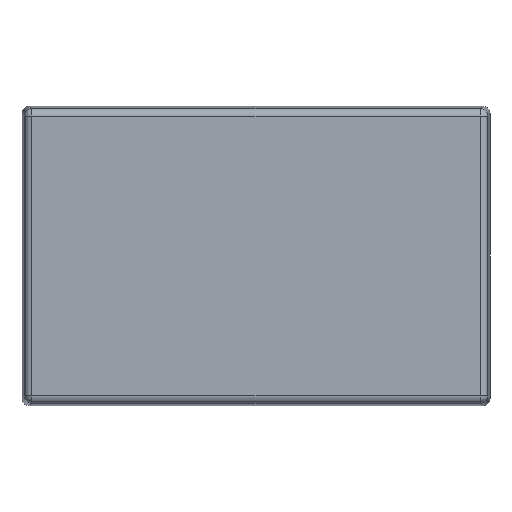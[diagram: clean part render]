
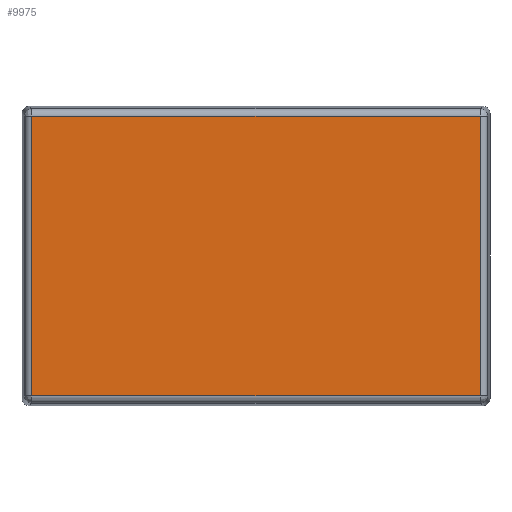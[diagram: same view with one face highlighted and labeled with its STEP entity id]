
A CAD part, front view. The second image highlights one B-rep face of the part: STEP entity #9975.
In plain terms, the highlighted planar face has unit normal (0, -1, 0).
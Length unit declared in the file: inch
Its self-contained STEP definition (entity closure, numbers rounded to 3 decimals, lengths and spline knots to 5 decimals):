
#572 = CARTESIAN_POINT ( 'NONE',  ( -0.625, -0.40157, 0.4 ) ) ;
#2561 = LINE ( 'NONE', #14708, #20942 ) ;
#3792 = ORIENTED_EDGE ( 'NONE', *, *, #38741, .F. ) ;
#4059 = PLANE ( 'NONE',  #43212 ) ;
#5371 = VERTEX_POINT ( 'NONE', #41976 ) ;
#7312 = LINE ( 'NONE', #30214, #46936 ) ;
#7515 = DIRECTION ( 'NONE',  ( 1., 0., 0. ) ) ;
#9975 = ADVANCED_FACE ( 'NONE', ( #39046 ), #4059, .F. ) ;
#10796 = EDGE_CURVE ( 'NONE', #42915, #41196, #32305, .T. ) ;
#11177 = DIRECTION ( 'NONE',  ( 0., 0., 1. ) ) ;
#11431 = ORIENTED_EDGE ( 'NONE', *, *, #14250, .F. ) ;
#14250 = EDGE_CURVE ( 'NONE', #16400, #42915, #32494, .T. ) ;
#14708 = CARTESIAN_POINT ( 'NONE',  ( -0.59865, -0.40157, 0.4 ) ) ;
#15294 = DIRECTION ( 'NONE',  ( -1., 0., 0. ) ) ;
#15755 = DIRECTION ( 'NONE',  ( 0., 0., -1. ) ) ;
#16400 = VERTEX_POINT ( 'NONE', #42750 ) ;
#18083 = VECTOR ( 'NONE', #15294, 39.37008 ) ;
#18205 = DIRECTION ( 'NONE',  ( 0., 0., 1. ) ) ;
#20659 = VECTOR ( 'NONE', #15755, 39.37008 ) ;
#20942 = VECTOR ( 'NONE', #18205, 39.37008 ) ;
#27062 = DIRECTION ( 'NONE',  ( 0., 1., 0. ) ) ;
#29871 = CARTESIAN_POINT ( 'NONE',  ( 0.59865, -0.40157, 0.4 ) ) ;
#30214 = CARTESIAN_POINT ( 'NONE',  ( -0.625, -0.40157, 0.37365 ) ) ;
#31211 = EDGE_LOOP ( 'NONE', ( #3792, #42930, #38996, #11431 ) ) ;
#32305 = LINE ( 'NONE', #37696, #18083 ) ;
#32494 = LINE ( 'NONE', #29871, #20659 ) ;
#37696 = CARTESIAN_POINT ( 'NONE',  ( -0.625, -0.40157, -0.37365 ) ) ;
#38741 = EDGE_CURVE ( 'NONE', #5371, #16400, #7312, .T. ) ;
#38996 = ORIENTED_EDGE ( 'NONE', *, *, #10796, .F. ) ;
#39046 = FACE_OUTER_BOUND ( 'NONE', #31211, .T. ) ;
#39224 = EDGE_CURVE ( 'NONE', #41196, #5371, #2561, .T. ) ;
#41196 = VERTEX_POINT ( 'NONE', #47432 ) ;
#41976 = CARTESIAN_POINT ( 'NONE',  ( -0.59865, -0.40157, 0.37365 ) ) ;
#42750 = CARTESIAN_POINT ( 'NONE',  ( 0.59865, -0.40157, 0.37365 ) ) ;
#42915 = VERTEX_POINT ( 'NONE', #47161 ) ;
#42930 = ORIENTED_EDGE ( 'NONE', *, *, #39224, .F. ) ;
#43212 = AXIS2_PLACEMENT_3D ( 'NONE', #572, #27062, #11177 ) ;
#46936 = VECTOR ( 'NONE', #7515, 39.37008 ) ;
#47161 = CARTESIAN_POINT ( 'NONE',  ( 0.59865, -0.40157, -0.37365 ) ) ;
#47432 = CARTESIAN_POINT ( 'NONE',  ( -0.59865, -0.40157, -0.37365 ) ) ;
